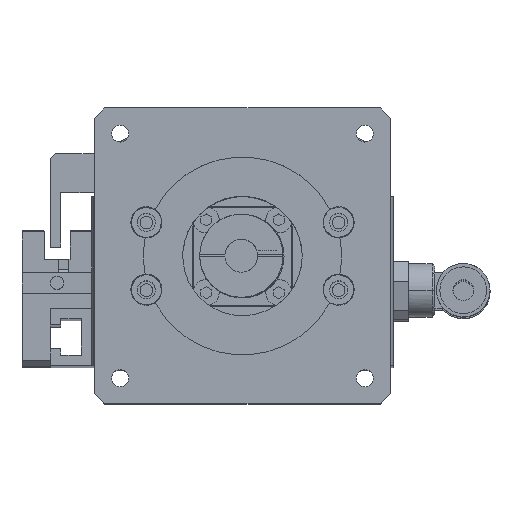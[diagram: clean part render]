
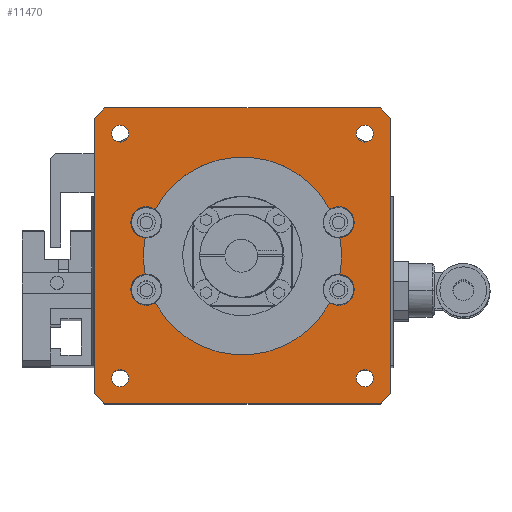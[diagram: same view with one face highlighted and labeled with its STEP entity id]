
A CAD part, top view. The second image highlights one B-rep face of the part: STEP entity #11470.
In plain terms, the highlighted planar face has unit normal (0, 0, 1).
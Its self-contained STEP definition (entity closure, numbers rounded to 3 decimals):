
#11255=CARTESIAN_POINT('',(-4.5,-11.,8.0));
#11256=VERTEX_POINT('',#11255);
#11257=CARTESIAN_POINT('',(-6.5,-9.,8.0));
#11258=VERTEX_POINT('',#11257);
#11259=CARTESIAN_POINT('',(-4.5,-11.,8.0));
#11260=DIRECTION('',(-0.707,0.707,0.0));
#11261=VECTOR('',#11260,2.828);
#11262=LINE('',#11259,#11261);
#11263=EDGE_CURVE('',#11256,#11258,#11262,.T.);
#11290=CARTESIAN_POINT('',(22.,17.5,8.0));
#11291=DIRECTION('',(0.0,0.0,1.0));
#11292=DIRECTION('',(1.0,0.0,0.0));
#11293=AXIS2_PLACEMENT_3D('',#11290,#11291,#11292);
#11294=PLANE('',#11293);
#11295=ORIENTED_EDGE('',*,*,#11263,.F.);
#11296=CARTESIAN_POINT('',(48.5,-11.,8.0));
#11297=VERTEX_POINT('',#11296);
#11298=CARTESIAN_POINT('',(48.5,-11.,8.0));
#11299=DIRECTION('',(-1.0,0.0,0.0));
#11300=VECTOR('',#11299,53.);
#11301=LINE('',#11298,#11300);
#11302=EDGE_CURVE('',#11297,#11256,#11301,.T.);
#11303=ORIENTED_EDGE('',*,*,#11302,.F.);
#11304=CARTESIAN_POINT('',(50.5,-9.,8.0));
#11305=VERTEX_POINT('',#11304);
#11306=CARTESIAN_POINT('',(50.5,-9.,8.0));
#11307=DIRECTION('',(-0.707,-0.707,0.0));
#11308=VECTOR('',#11307,2.828);
#11309=LINE('',#11306,#11308);
#11310=EDGE_CURVE('',#11305,#11297,#11309,.T.);
#11311=ORIENTED_EDGE('',*,*,#11310,.F.);
#11312=CARTESIAN_POINT('',(50.5,44.0,8.0));
#11313=VERTEX_POINT('',#11312);
#11314=CARTESIAN_POINT('',(50.5,44.0,8.0));
#11315=DIRECTION('',(0.0,-1.0,0.0));
#11316=VECTOR('',#11315,53.0);
#11317=LINE('',#11314,#11316);
#11318=EDGE_CURVE('',#11313,#11305,#11317,.T.);
#11319=ORIENTED_EDGE('',*,*,#11318,.F.);
#11320=CARTESIAN_POINT('',(48.5,46.,8.0));
#11321=VERTEX_POINT('',#11320);
#11322=CARTESIAN_POINT('',(48.5,46.,8.0));
#11323=DIRECTION('',(0.707,-0.707,0.0));
#11324=VECTOR('',#11323,2.828);
#11325=LINE('',#11322,#11324);
#11326=EDGE_CURVE('',#11321,#11313,#11325,.T.);
#11327=ORIENTED_EDGE('',*,*,#11326,.F.);
#11328=CARTESIAN_POINT('',(-4.5,46.,8.0));
#11329=VERTEX_POINT('',#11328);
#11330=CARTESIAN_POINT('',(-4.5,46.,8.0));
#11331=DIRECTION('',(1.0,0.0,0.0));
#11332=VECTOR('',#11331,53.);
#11333=LINE('',#11330,#11332);
#11334=EDGE_CURVE('',#11329,#11321,#11333,.T.);
#11335=ORIENTED_EDGE('',*,*,#11334,.F.);
#11336=CARTESIAN_POINT('',(-6.5,44.0,8.0));
#11337=VERTEX_POINT('',#11336);
#11338=CARTESIAN_POINT('',(-6.5,44.0,8.0));
#11339=DIRECTION('',(0.707,0.707,0.0));
#11340=VECTOR('',#11339,2.828);
#11341=LINE('',#11338,#11340);
#11342=EDGE_CURVE('',#11337,#11329,#11341,.T.);
#11343=ORIENTED_EDGE('',*,*,#11342,.F.);
#11344=CARTESIAN_POINT('',(-6.5,-9.,8.0));
#11345=DIRECTION('',(0.0,1.0,0.0));
#11346=VECTOR('',#11345,53.0);
#11347=LINE('',#11344,#11346);
#11348=EDGE_CURVE('',#11258,#11337,#11347,.T.);
#11349=ORIENTED_EDGE('',*,*,#11348,.F.);
#11350=EDGE_LOOP('',(#11295,#11303,#11311,#11319,#11327,#11335,#11343,#11349));
#11351=FACE_OUTER_BOUND('',#11350,.T.);
#11352=CARTESIAN_POINT('',(0.071,-6.05,8.0));
#11353=VERTEX_POINT('',#11352);
#11354=CARTESIAN_POINT('',(-1.55,-6.05,8.));
#11355=DIRECTION('',(0.0,0.0,-1.0));
#11356=DIRECTION('',(1.0,0.0,0.0));
#11357=AXIS2_PLACEMENT_3D('',#11354,#11355,#11356);
#11358=CIRCLE('',#11357,1.621);
#11359=EDGE_CURVE('',#11353,#11353,#11358,.T.);
#11360=ORIENTED_EDGE('',*,*,#11359,.T.);
#11361=EDGE_LOOP('',(#11360));
#11362=FACE_BOUND('',#11361,.T.);
#11363=CARTESIAN_POINT('',(47.171,41.05,8.0));
#11364=VERTEX_POINT('',#11363);
#11365=CARTESIAN_POINT('',(45.55,41.05,8.));
#11366=DIRECTION('',(0.0,0.0,-1.0));
#11367=DIRECTION('',(1.0,0.0,0.0));
#11368=AXIS2_PLACEMENT_3D('',#11365,#11366,#11367);
#11369=CIRCLE('',#11368,1.621);
#11370=EDGE_CURVE('',#11364,#11364,#11369,.T.);
#11371=ORIENTED_EDGE('',*,*,#11370,.T.);
#11372=EDGE_LOOP('',(#11371));
#11373=FACE_BOUND('',#11372,.T.);
#11374=CARTESIAN_POINT('',(47.171,-6.05,8.0));
#11375=VERTEX_POINT('',#11374);
#11376=CARTESIAN_POINT('',(45.55,-6.05,8.));
#11377=DIRECTION('',(0.0,0.0,-1.0));
#11378=DIRECTION('',(1.0,0.0,0.0));
#11379=AXIS2_PLACEMENT_3D('',#11376,#11377,#11378);
#11380=CIRCLE('',#11379,1.621);
#11381=EDGE_CURVE('',#11375,#11375,#11380,.T.);
#11382=ORIENTED_EDGE('',*,*,#11381,.T.);
#11383=EDGE_LOOP('',(#11382));
#11384=FACE_BOUND('',#11383,.T.);
#11385=CARTESIAN_POINT('',(0.071,41.05,8.0));
#11386=VERTEX_POINT('',#11385);
#11387=CARTESIAN_POINT('',(-1.55,41.05,8.));
#11388=DIRECTION('',(0.0,0.0,-1.0));
#11389=DIRECTION('',(1.0,0.0,0.0));
#11390=AXIS2_PLACEMENT_3D('',#11387,#11388,#11389);
#11391=CIRCLE('',#11390,1.621);
#11392=EDGE_CURVE('',#11386,#11386,#11391,.T.);
#11393=ORIENTED_EDGE('',*,*,#11392,.T.);
#11394=EDGE_LOOP('',(#11393));
#11395=FACE_BOUND('',#11394,.T.);
#11396=CARTESIAN_POINT('',(38.804,26.474,8.));
#11397=VERTEX_POINT('',#11396);
#11398=CARTESIAN_POINT('',(40.724,21.008,8.));
#11399=VERTEX_POINT('',#11398);
#11400=CARTESIAN_POINT('',(40.5,24.,8.0));
#11401=DIRECTION('',(0.0,0.0,-1.0));
#11402=DIRECTION('',(1.0,0.0,0.0));
#11403=AXIS2_PLACEMENT_3D('',#11400,#11401,#11402);
#11404=CIRCLE('',#11403,3.);
#11405=EDGE_CURVE('',#11397,#11399,#11404,.T.);
#11406=ORIENTED_EDGE('',*,*,#11405,.T.);
#11407=CARTESIAN_POINT('',(40.724,13.992,8.));
#11408=VERTEX_POINT('',#11407);
#11409=CARTESIAN_POINT('',(22.0,17.5,8.0));
#11410=DIRECTION('',(0.0,0.0,-1.0));
#11411=DIRECTION('',(1.0,0.0,0.0));
#11412=AXIS2_PLACEMENT_3D('',#11409,#11410,#11411);
#11413=CIRCLE('',#11412,19.05);
#11414=EDGE_CURVE('',#11399,#11408,#11413,.T.);
#11415=ORIENTED_EDGE('',*,*,#11414,.T.);
#11416=CARTESIAN_POINT('',(38.804,8.526,8.));
#11417=VERTEX_POINT('',#11416);
#11418=CARTESIAN_POINT('',(40.5,11.,8.0));
#11419=DIRECTION('',(0.0,0.0,-1.0));
#11420=DIRECTION('',(1.0,0.0,0.0));
#11421=AXIS2_PLACEMENT_3D('',#11418,#11419,#11420);
#11422=CIRCLE('',#11421,3.);
#11423=EDGE_CURVE('',#11408,#11417,#11422,.T.);
#11424=ORIENTED_EDGE('',*,*,#11423,.T.);
#11425=CARTESIAN_POINT('',(5.196,8.526,8.0));
#11426=VERTEX_POINT('',#11425);
#11427=CARTESIAN_POINT('',(22.0,17.5,8.0));
#11428=DIRECTION('',(0.0,0.0,-1.0));
#11429=DIRECTION('',(1.0,0.0,0.0));
#11430=AXIS2_PLACEMENT_3D('',#11427,#11428,#11429);
#11431=CIRCLE('',#11430,19.05);
#11432=EDGE_CURVE('',#11417,#11426,#11431,.T.);
#11433=ORIENTED_EDGE('',*,*,#11432,.T.);
#11434=CARTESIAN_POINT('',(3.276,13.992,8.0));
#11435=VERTEX_POINT('',#11434);
#11436=CARTESIAN_POINT('',(3.5,11.,8.0));
#11437=DIRECTION('',(0.0,0.0,-1.0));
#11438=DIRECTION('',(1.0,0.0,0.0));
#11439=AXIS2_PLACEMENT_3D('',#11436,#11437,#11438);
#11440=CIRCLE('',#11439,3.);
#11441=EDGE_CURVE('',#11426,#11435,#11440,.T.);
#11442=ORIENTED_EDGE('',*,*,#11441,.T.);
#11443=CARTESIAN_POINT('',(3.276,21.008,8.));
#11444=VERTEX_POINT('',#11443);
#11445=CARTESIAN_POINT('',(22.0,17.5,8.0));
#11446=DIRECTION('',(0.0,0.0,-1.0));
#11447=DIRECTION('',(1.0,0.0,0.0));
#11448=AXIS2_PLACEMENT_3D('',#11445,#11446,#11447);
#11449=CIRCLE('',#11448,19.05);
#11450=EDGE_CURVE('',#11435,#11444,#11449,.T.);
#11451=ORIENTED_EDGE('',*,*,#11450,.T.);
#11452=CARTESIAN_POINT('',(5.196,26.474,8.));
#11453=VERTEX_POINT('',#11452);
#11454=CARTESIAN_POINT('',(3.5,24.,8.0));
#11455=DIRECTION('',(0.0,0.0,-1.0));
#11456=DIRECTION('',(1.0,0.0,0.0));
#11457=AXIS2_PLACEMENT_3D('',#11454,#11455,#11456);
#11458=CIRCLE('',#11457,3.);
#11459=EDGE_CURVE('',#11444,#11453,#11458,.T.);
#11460=ORIENTED_EDGE('',*,*,#11459,.T.);
#11461=CARTESIAN_POINT('',(22.0,17.5,8.0));
#11462=DIRECTION('',(0.0,0.0,-1.0));
#11463=DIRECTION('',(1.0,0.0,0.0));
#11464=AXIS2_PLACEMENT_3D('',#11461,#11462,#11463);
#11465=CIRCLE('',#11464,19.05);
#11466=EDGE_CURVE('',#11453,#11397,#11465,.T.);
#11467=ORIENTED_EDGE('',*,*,#11466,.T.);
#11468=EDGE_LOOP('',(#11406,#11415,#11424,#11433,#11442,#11451,#11460,#11467));
#11469=FACE_BOUND('',#11468,.T.);
#11470=ADVANCED_FACE('',(#11351,#11362,#11373,#11384,#11395,#11469),#11294,.T.);
